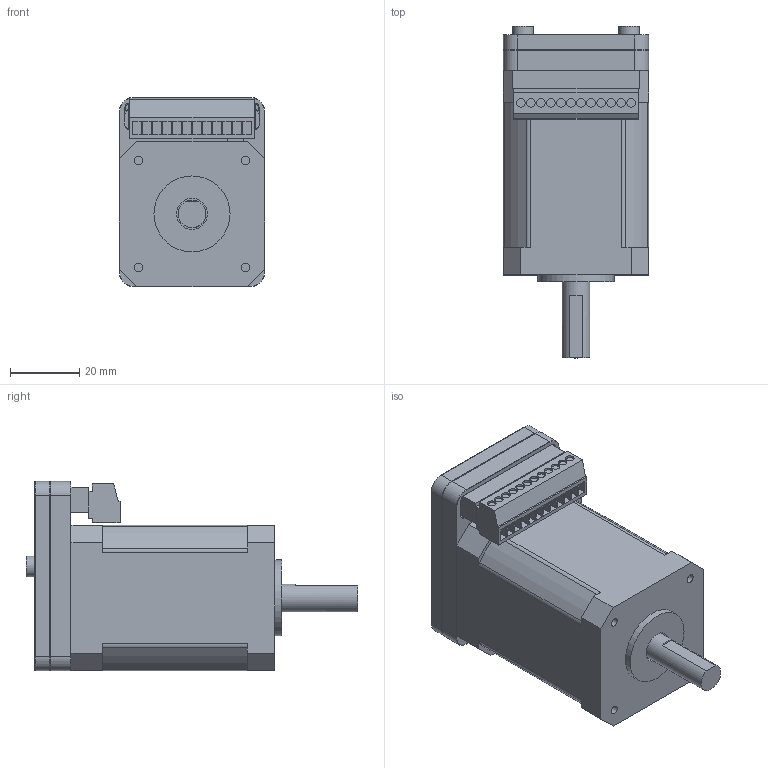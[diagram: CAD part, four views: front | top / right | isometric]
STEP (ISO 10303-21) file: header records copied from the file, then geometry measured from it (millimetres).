
FILE_DESCRIPTION(/* description */ ('Unknown'),/* implementation_level */ '2;1');
FILE_NAME(/* name */ '42_L60_C82',/* time_stamp */ '2023-07-12T09:27:40+08:00',/* author */ ('Unknown'),/* organization */ ('Unknown'),/* preprocessor_version */ 'ST-DEVELOPER v16.7',/* originating_system */ 'DEX',/* authorisation */ $);
FILE_SCHEMA (('AUTOMOTIVE_DESIGN {1 0 10303 214 3 1 1}'));
Length unit declared in the file: millimetre
Products named in the file (1): 42_L60_C82
Bounding box: 42 x 96 x 54.7 mm (x, y, z)
Volume: 115304.8 mm3; surface area: 25692.7 mm2
Topology: 1 solids, 1 shells, 358 faces, 901 edges, 584 vertices
Faces by surface type: plane 222, cylinder 100, cone 36
Full cylindrical faces by diameter (mm): 2.459 x4, 2.5 x16, 3 x3, 3.2 x6, 6 x2, 8 x1, 9 x1, 12 x1, 22 x1
Entity records: 12660 total; most frequent: DIRECTION 1780, CARTESIAN_POINT 1721, ORIENTED_EDGE 1634, EDGE_CURVE 817, AXIS2_PLACEMENT_3D 604, LINE 572, VECTOR 572, VERTEX_POINT 545
